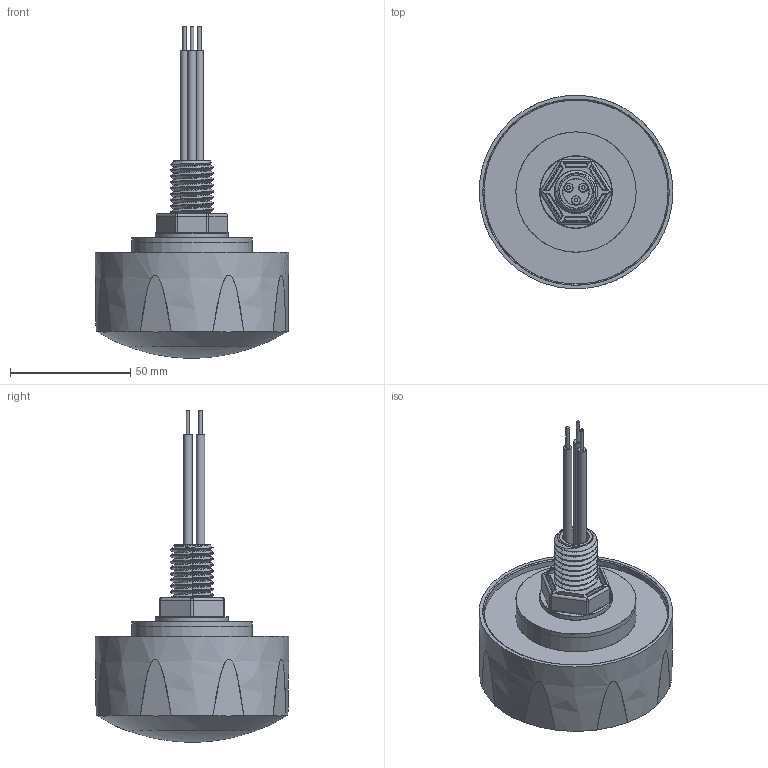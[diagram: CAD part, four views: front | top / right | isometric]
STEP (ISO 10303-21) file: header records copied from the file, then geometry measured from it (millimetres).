
FILE_DESCRIPTION(('STEP AP214'),'2;1');
FILE_NAME('10_61---catalogo_OK.stp','2011-04-11T16:49:49',(''),(''),'2007.1.106','THINKDESIGN','');
FILE_SCHEMA(('AUTOMOTIVE_DESIGN'));
Products named in the file (1): None
Bounding box: 80.48 x 80.43 x 138.03 mm (x, y, z)
Surface area: 39976.7 mm2 (no closed solid volume)
Topology: 0 solids, 0 shells, 229 faces, 1134 edges, 1092 vertices
Faces by surface type: cylinder 87, plane 74, bspline 68
Full cylindrical faces by diameter (mm): 1.5 x3, 3.5 x3, 3.7 x3, 18 x8, 30.14 x1, 50 x2
Entity records: 45002 total; most frequent: CARTESIAN_POINT 38067, COMPOSITE_CURVE_SEGMENT 1116, DIRECTION 898, TRIMMED_CURVE 485, B_SPLINE_CURVE_WITH_KNOTS 463, VECTOR 434, LINE 434, AXIS2_PLACEMENT_3D 232
